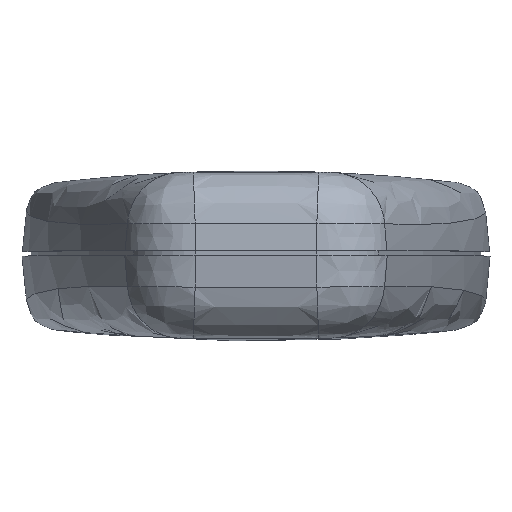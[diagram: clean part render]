
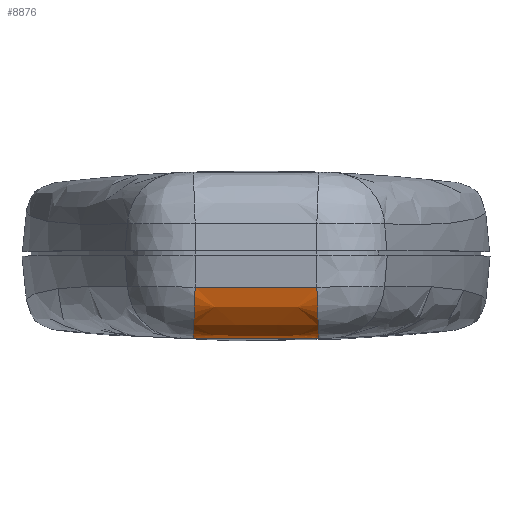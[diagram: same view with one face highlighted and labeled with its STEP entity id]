
A CAD part, top view. The second image highlights one B-rep face of the part: STEP entity #8876.
In plain terms, the highlighted free-form (B-spline) face has degree [2, 3] with [3, 4] control points.
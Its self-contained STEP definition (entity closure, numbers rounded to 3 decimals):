
#48 = FACE_OUTER_BOUND ( 'NONE', #3936, .T. ) ;
#911 = CARTESIAN_POINT ( 'NONE',  ( -6.689, -8.888, -0.778 ) ) ;
#1881 = CARTESIAN_POINT ( 'NONE',  ( -6.705, -8.888, -6.276 ) ) ;
#2906 = CARTESIAN_POINT ( 'NONE',  ( -2.237, -9.037, -6.289 ) ) ;
#3093 = CARTESIAN_POINT ( 'NONE',  ( -6.504, -3.416, -0.299 ) ) ;
#3168 =( BOUNDED_CURVE ( )  B_SPLINE_CURVE ( 2, ( #3093, #6787, #5018 ),
 .UNSPECIFIED., .F., .T. ) 
 B_SPLINE_CURVE_WITH_KNOTS ( ( 3, 3 ),
 ( 0., 1. ),
 .UNSPECIFIED. ) 
 CURVE ( )  GEOMETRIC_REPRESENTATION_ITEM ( )  RATIONAL_B_SPLINE_CURVE ( ( 1., 0.737, 1. ) ) 
 REPRESENTATION_ITEM ( '' )  );
#3280 = CARTESIAN_POINT ( 'NONE',  ( 2.237, -9.037, -6.289 ) ) ;
#3361 = VERTEX_POINT ( 'NONE', #6476 ) ;
#3688 = VERTEX_POINT ( 'NONE', #10079 ) ;
#3692 = CARTESIAN_POINT ( 'NONE',  ( -2.232, -9.037, -0.791 ) ) ;
#3914 = CARTESIAN_POINT ( 'NONE',  ( 6.504, -3.414, -0.299 ) ) ;
#3936 = EDGE_LOOP ( 'NONE', ( #4321, #4821, #4215, #5292 ) ) ;
#4172 = CARTESIAN_POINT ( 'NONE',  ( -2.237, -9.037, -6.289 ) ) ;
#4215 = ORIENTED_EDGE ( 'NONE', *, *, #6160, .F. ) ;
#4281 = CARTESIAN_POINT ( 'NONE',  ( 6.705, -8.888, -6.276 ) ) ;
#4321 = ORIENTED_EDGE ( 'NONE', *, *, #5486, .T. ) ;
#4821 = ORIENTED_EDGE ( 'NONE', *, *, #5328, .F. ) ;
#5018 = CARTESIAN_POINT ( 'NONE',  ( -6.705, -8.888, -6.276 ) ) ;
#5024 = CARTESIAN_POINT ( 'NONE',  ( -6.504, -3.416, -0.299 ) ) ;
#5211 = CARTESIAN_POINT ( 'NONE',  ( 6.504, -3.414, -0.299 ) ) ;
#5292 = ORIENTED_EDGE ( 'NONE', *, *, #8412, .F. ) ;
#5328 = EDGE_CURVE ( 'NONE', #6640, #10088, #6876, .T. ) ;
#5486 = EDGE_CURVE ( 'NONE', #3361, #10088, #3168, .T. ) ;
#5570 = CARTESIAN_POINT ( 'NONE',  ( 2.237, -9.037, -6.289 ) ) ;
#5668 =( BOUNDED_CURVE ( )  B_SPLINE_CURVE ( 2, ( #9121, #6272, #11844 ),
 .UNSPECIFIED., .F., .F. ) 
 B_SPLINE_CURVE_WITH_KNOTS ( ( 3, 3 ),
 ( 0., 1. ),
 .UNSPECIFIED. ) 
 CURVE ( )  GEOMETRIC_REPRESENTATION_ITEM ( )  RATIONAL_B_SPLINE_CURVE ( ( 1., 0.737, 1. ) ) 
 REPRESENTATION_ITEM ( '' )  );
#6016 = CARTESIAN_POINT ( 'NONE',  ( 6.705, -8.888, -6.276 ) ) ;
#6033 = CARTESIAN_POINT ( 'NONE',  ( -6.705, -8.888, -6.276 ) ) ;
#6160 = EDGE_CURVE ( 'NONE', #3688, #6640, #5668, .T. ) ;
#6272 = CARTESIAN_POINT ( 'NONE',  ( 6.689, -8.888, -0.778 ) ) ;
#6299 =( BOUNDED_SURFACE ( )  B_SPLINE_SURFACE ( 2, 3, ( 
 ( #7443, #10349, #8530, #3914 ),
 ( #911, #3692, #7390, #10175 ),
 ( #1881, #2906, #5570, #9273 ) ),
 .UNSPECIFIED., .F., .F., .F. ) 
 B_SPLINE_SURFACE_WITH_KNOTS ( ( 3, 3 ),
 ( 4, 4 ),
 ( 0., 1. ),
 ( -0.033, 0.033 ),
 .UNSPECIFIED. ) 
 GEOMETRIC_REPRESENTATION_ITEM ( )  RATIONAL_B_SPLINE_SURFACE ( (
 ( 1., 1., 1., 1.),
 ( 0.737, 0.737, 0.737, 0.737),
 ( 1., 1., 1., 1.) ) ) 
 REPRESENTATION_ITEM ( '' )  SURFACE ( )  );
#6476 = CARTESIAN_POINT ( 'NONE',  ( -6.504, -3.416, -0.299 ) ) ;
#6640 = VERTEX_POINT ( 'NONE', #4281 ) ;
#6787 = CARTESIAN_POINT ( 'NONE',  ( -6.689, -8.888, -0.778 ) ) ;
#6876 = B_SPLINE_CURVE_WITH_KNOTS ( 'NONE', 3,
 ( #6016, #3280, #4172, #10341 ),
 .UNSPECIFIED., .F., .F.,
 ( 4, 4 ),
 ( 0., 1. ),
 .UNSPECIFIED. ) ;
#6911 = CARTESIAN_POINT ( 'NONE',  ( 2.168, -3.559, -0.311 ) ) ;
#7390 = CARTESIAN_POINT ( 'NONE',  ( 2.232, -9.037, -0.791 ) ) ;
#7443 = CARTESIAN_POINT ( 'NONE',  ( -6.504, -3.414, -0.299 ) ) ;
#8412 = EDGE_CURVE ( 'NONE', #3361, #3688, #10664, .T. ) ;
#8530 = CARTESIAN_POINT ( 'NONE',  ( 2.17, -3.559, -0.311 ) ) ;
#8876 = ADVANCED_FACE ( 'NONE', ( #48 ), #6299, .T. ) ;
#9121 = CARTESIAN_POINT ( 'NONE',  ( 6.504, -3.414, -0.299 ) ) ;
#9273 = CARTESIAN_POINT ( 'NONE',  ( 6.705, -8.888, -6.276 ) ) ;
#10079 = CARTESIAN_POINT ( 'NONE',  ( 6.504, -3.414, -0.299 ) ) ;
#10088 = VERTEX_POINT ( 'NONE', #6033 ) ;
#10175 = CARTESIAN_POINT ( 'NONE',  ( 6.689, -8.888, -0.778 ) ) ;
#10341 = CARTESIAN_POINT ( 'NONE',  ( -6.705, -8.888, -6.276 ) ) ;
#10349 = CARTESIAN_POINT ( 'NONE',  ( -2.17, -3.559, -0.311 ) ) ;
#10664 = B_SPLINE_CURVE_WITH_KNOTS ( 'NONE', 3,
 ( #5024, #11584, #6911, #5211 ),
 .UNSPECIFIED., .F., .F.,
 ( 4, 4 ),
 ( 0., 1. ),
 .UNSPECIFIED. ) ;
#11584 = CARTESIAN_POINT ( 'NONE',  ( -2.168, -3.559, -0.311 ) ) ;
#11844 = CARTESIAN_POINT ( 'NONE',  ( 6.705, -8.888, -6.276 ) ) ;
